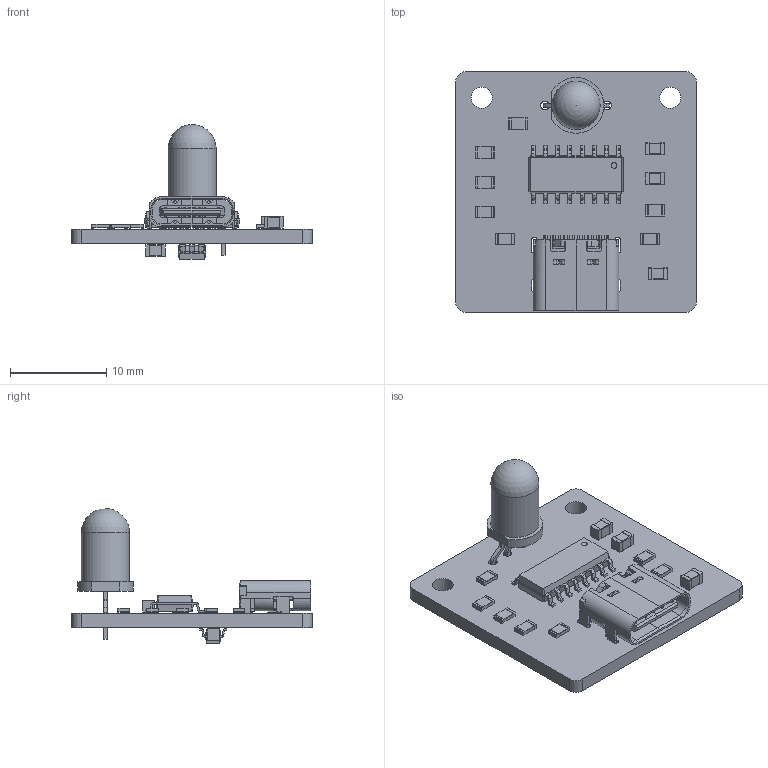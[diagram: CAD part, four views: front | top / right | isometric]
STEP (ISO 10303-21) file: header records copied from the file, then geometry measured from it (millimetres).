
FILE_DESCRIPTION(('KiCad electronic assembly'),'2;1');
FILE_NAME('sl25.step','2026-09-05T18:57:34',('Pcbnew'),('Kicad'), 'Open CASCADE STEP processor 7.9','KiCad to STEP converter','Unknown' );
FILE_SCHEMA(('AUTOMOTIVE_DESIGN { 1 0 10303 214 1 1 1 1 }'));
Length unit declared in the file: millimetre
Products named in the file (14): sl25 1; C_0805_2012Metric; R_0805_2012Metric; SOIC-16_3.9x9.9mm_P1.27mm; LED_D5.0mm-4_RGB_Wide_Pins; USB_C_Receptacle_GCT_USB4105-xx-A_16P_TopMnt_Horizontal; USB_C_Receptacle_16P_TopMnt_Horizontal_GCT_USB4105-xx-A; SOT-23-6; sl25_PCB
Assembly tree (22 placements, depth 3):
  sl25 1
    C_0805_2012Metric  x4
      C_0805_2012Metric
    R_0805_2012Metric  x7
      R_0805_2012Metric
    SOIC-16_3.9x9.9mm_P1.27mm
      SOIC-16_3.9x9.9mm_P1.27mm
    LED_D5.0mm-4_RGB_Wide_Pins
      LED_D5.0mm-4_RGB_Wide_Pins
    USB_C_Receptacle_GCT_USB4105-xx-A_16P_TopMnt_Horizontal
      USB_C_Receptacle_16P_TopMnt_Horizontal_GCT_USB4105-xx-A
    SOT-23-6
      SOT-23-6
    sl25_PCB
Bounding box: 25 x 25 x 14.03 mm (x, y, z)
Volume: 1290 mm3; surface area: 2457.3 mm2
Topology: 55 solids, 55 shells, 1452 faces, 3680 edges, 2338 vertices
Faces by surface type: plane 1041, cylinder 370, bspline 32, cone 8, sphere 1
Full cylindrical faces by diameter (mm): 0.5 x2, 0.65 x2, 0.9 x4, 2.2 x2, 5 x1
Entity records: 45468 total; most frequent: CARTESIAN_POINT 6468, ORIENTED_EDGE 6110, DIRECTION 5983, EDGE_CURVE 3055, LINE 2413, VECTOR 2413, VERTEX_POINT 1930, AXIS2_PLACEMENT_3D 1785
